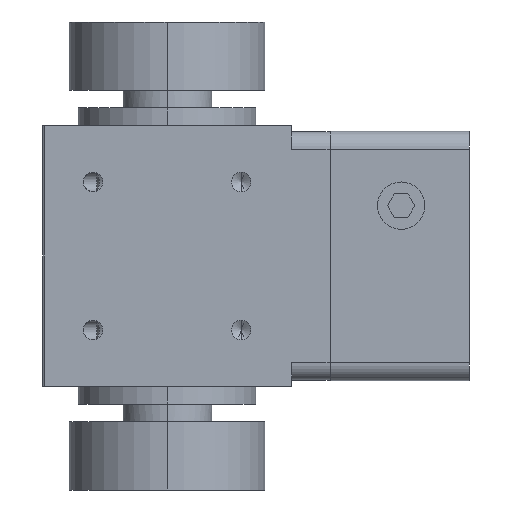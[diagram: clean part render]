
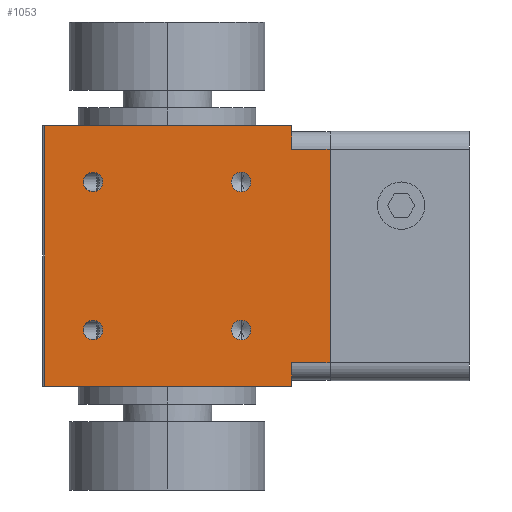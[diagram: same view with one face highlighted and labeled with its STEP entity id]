
A CAD part, left-side view. The second image highlights one B-rep face of the part: STEP entity #1053.
In plain terms, the highlighted planar face has unit normal (-1, 0, 0).
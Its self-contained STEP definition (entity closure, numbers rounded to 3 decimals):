
#54 = VECTOR ( 'NONE', #6122, 1000. ) ;
#59 = CARTESIAN_POINT ( 'NONE',  ( -21., -21., 22. ) ) ;
#90 = VERTEX_POINT ( 'NONE', #8838 ) ;
#144 = EDGE_CURVE ( 'NONE', #90, #648, #5984, .T. ) ;
#196 = CARTESIAN_POINT ( 'NONE',  ( -21., 21., -22. ) ) ;
#262 = AXIS2_PLACEMENT_3D ( 'NONE', #1264, #4088, #1291 ) ;
#356 = EDGE_CURVE ( 'NONE', #997, #7024, #5750, .T. ) ;
#381 = EDGE_CURVE ( 'NONE', #3094, #7191, #5084, .T. ) ;
#384 = ORIENTED_EDGE ( 'NONE', *, *, #144, .F. ) ;
#403 = EDGE_CURVE ( 'NONE', #7191, #3094, #6207, .T. ) ;
#470 = EDGE_CURVE ( 'NONE', #2766, #2841, #1797, .T. ) ;
#546 = CARTESIAN_POINT ( 'NONE',  ( -21., 12.5, 12.5 ) ) ;
#576 = CARTESIAN_POINT ( 'NONE',  ( -21., 20.7, -22. ) ) ;
#648 = VERTEX_POINT ( 'NONE', #1856 ) ;
#665 = EDGE_CURVE ( 'NONE', #5672, #6068, #1447, .T. ) ;
#708 = CARTESIAN_POINT ( 'NONE',  ( -21., 20.7, 22. ) ) ;
#812 = EDGE_CURVE ( 'NONE', #3166, #8064, #7097, .T. ) ;
#813 = CARTESIAN_POINT ( 'NONE',  ( -21., -12.5, 12.5 ) ) ;
#872 = DIRECTION ( 'NONE',  ( 0., -1., 0. ) ) ;
#997 = VERTEX_POINT ( 'NONE', #7281 ) ;
#1013 = DIRECTION ( 'NONE',  ( 0., -1., 0. ) ) ;
#1053 = ADVANCED_FACE ( 'NONE', ( #2654, #3757, #8515, #6077, #4192 ), #3772, .T. ) ;
#1074 = DIRECTION ( 'NONE',  ( -1., 0., 0. ) ) ;
#1168 = ORIENTED_EDGE ( 'NONE', *, *, #812, .T. ) ;
#1264 = CARTESIAN_POINT ( 'NONE',  ( -21., 12.5, -12.5 ) ) ;
#1291 = DIRECTION ( 'NONE',  ( 0., 0., 1. ) ) ;
#1358 = CARTESIAN_POINT ( 'NONE',  ( -21., -12.5, 10.85 ) ) ;
#1413 = CIRCLE ( 'NONE', #4617, 1.65 ) ;
#1447 = LINE ( 'NONE', #4078, #2564 ) ;
#1538 = CARTESIAN_POINT ( 'NONE',  ( -21., -12.5, 12.5 ) ) ;
#1730 = DIRECTION ( 'NONE',  ( 0., 0., 1. ) ) ;
#1788 = CARTESIAN_POINT ( 'NONE',  ( -21., 12.5, 14.15 ) ) ;
#1797 = CIRCLE ( 'NONE', #4605, 1.65 ) ;
#1856 = CARTESIAN_POINT ( 'NONE',  ( -21., 12.5, -10.85 ) ) ;
#2040 = DIRECTION ( 'NONE',  ( 0., 0., 1. ) ) ;
#2275 = DIRECTION ( 'NONE',  ( -1., 0., 0. ) ) ;
#2303 = LINE ( 'NONE', #196, #4039 ) ;
#2379 = CARTESIAN_POINT ( 'NONE',  ( -21., -12.5, -12.5 ) ) ;
#2427 = EDGE_CURVE ( 'NONE', #648, #90, #1413, .T. ) ;
#2564 = VECTOR ( 'NONE', #9103, 1000. ) ;
#2568 = LINE ( 'NONE', #8843, #7762 ) ;
#2591 = VERTEX_POINT ( 'NONE', #7707 ) ;
#2654 = FACE_OUTER_BOUND ( 'NONE', #6034, .T. ) ;
#2758 = ORIENTED_EDGE ( 'NONE', *, *, #8014, .F. ) ;
#2766 = VERTEX_POINT ( 'NONE', #6436 ) ;
#2841 = VERTEX_POINT ( 'NONE', #8905 ) ;
#2856 = EDGE_CURVE ( 'NONE', #8064, #3480, #7485, .T. ) ;
#3094 = VERTEX_POINT ( 'NONE', #1358 ) ;
#3107 = CARTESIAN_POINT ( 'NONE',  ( -21., 21., -22. ) ) ;
#3152 = ORIENTED_EDGE ( 'NONE', *, *, #2856, .T. ) ;
#3166 = VERTEX_POINT ( 'NONE', #4835 ) ;
#3214 = ORIENTED_EDGE ( 'NONE', *, *, #8682, .F. ) ;
#3260 = DIRECTION ( 'NONE',  ( 0., 0., 1. ) ) ;
#3294 = LINE ( 'NONE', #7000, #4717 ) ;
#3308 = ORIENTED_EDGE ( 'NONE', *, *, #470, .F. ) ;
#3371 = DIRECTION ( 'NONE',  ( 0., 0., 1. ) ) ;
#3480 = VERTEX_POINT ( 'NONE', #6727 ) ;
#3582 = ORIENTED_EDGE ( 'NONE', *, *, #8197, .F. ) ;
#3663 = DIRECTION ( 'NONE',  ( 0., -1., 0. ) ) ;
#3728 = AXIS2_PLACEMENT_3D ( 'NONE', #546, #4095, #3371 ) ;
#3757 = FACE_BOUND ( 'NONE', #4956, .T. ) ;
#3768 = CIRCLE ( 'NONE', #8349, 1.65 ) ;
#3772 = PLANE ( 'NONE',  #7122 ) ;
#4013 = CARTESIAN_POINT ( 'NONE',  ( -21., 21., 22. ) ) ;
#4039 = VECTOR ( 'NONE', #3663, 1000. ) ;
#4078 = CARTESIAN_POINT ( 'NONE',  ( -21., 20.7, -22. ) ) ;
#4088 = DIRECTION ( 'NONE',  ( -1., 0., 0. ) ) ;
#4095 = DIRECTION ( 'NONE',  ( -1., 0., 0. ) ) ;
#4119 = EDGE_CURVE ( 'NONE', #997, #6214, #3294, .T. ) ;
#4192 = FACE_BOUND ( 'NONE', #5665, .T. ) ;
#4394 = DIRECTION ( 'NONE',  ( -1., 0., 0. ) ) ;
#4430 = CARTESIAN_POINT ( 'NONE',  ( -21., -21., 18. ) ) ;
#4605 = AXIS2_PLACEMENT_3D ( 'NONE', #2379, #8794, #1730 ) ;
#4617 = AXIS2_PLACEMENT_3D ( 'NONE', #6063, #8915, #3260 ) ;
#4644 = ORIENTED_EDGE ( 'NONE', *, *, #2427, .F. ) ;
#4717 = VECTOR ( 'NONE', #2040, 1000. ) ;
#4747 = EDGE_CURVE ( 'NONE', #6068, #3166, #2303, .T. ) ;
#4835 = CARTESIAN_POINT ( 'NONE',  ( -21., -21., -22. ) ) ;
#4914 = DIRECTION ( 'NONE',  ( 0., 0., 1. ) ) ;
#4956 = EDGE_LOOP ( 'NONE', ( #4644, #384 ) ) ;
#4972 = DIRECTION ( 'NONE',  ( -1., 0., 0. ) ) ;
#4989 = ORIENTED_EDGE ( 'NONE', *, *, #665, .T. ) ;
#5015 = ORIENTED_EDGE ( 'NONE', *, *, #356, .F. ) ;
#5084 = CIRCLE ( 'NONE', #7347, 1.65 ) ;
#5120 = CARTESIAN_POINT ( 'NONE',  ( -21., 12.5, 12.5 ) ) ;
#5194 = VECTOR ( 'NONE', #4914, 1000. ) ;
#5275 = DIRECTION ( 'NONE',  ( 0., -1., 0. ) ) ;
#5314 = CARTESIAN_POINT ( 'NONE',  ( -21., -27.5, 18. ) ) ;
#5422 = CIRCLE ( 'NONE', #5971, 1.65 ) ;
#5582 = CARTESIAN_POINT ( 'NONE',  ( -21., -12.5, -12.5 ) ) ;
#5665 = EDGE_LOOP ( 'NONE', ( #3308, #3582 ) ) ;
#5672 = VERTEX_POINT ( 'NONE', #708 ) ;
#5750 = LINE ( 'NONE', #4430, #6433 ) ;
#5971 = AXIS2_PLACEMENT_3D ( 'NONE', #5582, #4972, #7837 ) ;
#5984 = CIRCLE ( 'NONE', #262, 1.65 ) ;
#6011 = EDGE_LOOP ( 'NONE', ( #3214, #7362 ) ) ;
#6034 = EDGE_LOOP ( 'NONE', ( #2758, #4989, #6118, #1168, #3152, #8687, #5015, #8734 ) ) ;
#6063 = CARTESIAN_POINT ( 'NONE',  ( -21., 12.5, -12.5 ) ) ;
#6068 = VERTEX_POINT ( 'NONE', #576 ) ;
#6077 = FACE_BOUND ( 'NONE', #6242, .T. ) ;
#6118 = ORIENTED_EDGE ( 'NONE', *, *, #4747, .T. ) ;
#6122 = DIRECTION ( 'NONE',  ( 0., -1., 0. ) ) ;
#6203 = CIRCLE ( 'NONE', #3728, 1.65 ) ;
#6207 = CIRCLE ( 'NONE', #8764, 1.65 ) ;
#6214 = VERTEX_POINT ( 'NONE', #59 ) ;
#6242 = EDGE_LOOP ( 'NONE', ( #6832, #7674 ) ) ;
#6433 = VECTOR ( 'NONE', #872, 1000. ) ;
#6436 = CARTESIAN_POINT ( 'NONE',  ( -21., -12.5, -10.85 ) ) ;
#6481 = DIRECTION ( 'NONE',  ( -1., 0., 0. ) ) ;
#6727 = CARTESIAN_POINT ( 'NONE',  ( -21., -27.5, -18. ) ) ;
#6832 = ORIENTED_EDGE ( 'NONE', *, *, #403, .F. ) ;
#7000 = CARTESIAN_POINT ( 'NONE',  ( -21., -21., -22. ) ) ;
#7024 = VERTEX_POINT ( 'NONE', #5314 ) ;
#7073 = VERTEX_POINT ( 'NONE', #1788 ) ;
#7097 = LINE ( 'NONE', #7160, #5194 ) ;
#7122 = AXIS2_PLACEMENT_3D ( 'NONE', #3107, #1074, #1013 ) ;
#7160 = CARTESIAN_POINT ( 'NONE',  ( -21., -21., -22. ) ) ;
#7173 = DIRECTION ( 'NONE',  ( 0., 0., 1. ) ) ;
#7187 = DIRECTION ( 'NONE',  ( 0., 0., 1. ) ) ;
#7191 = VERTEX_POINT ( 'NONE', #7768 ) ;
#7281 = CARTESIAN_POINT ( 'NONE',  ( -21., -21., 18. ) ) ;
#7347 = AXIS2_PLACEMENT_3D ( 'NONE', #813, #4394, #7173 ) ;
#7362 = ORIENTED_EDGE ( 'NONE', *, *, #8276, .F. ) ;
#7485 = LINE ( 'NONE', #8780, #9047 ) ;
#7674 = ORIENTED_EDGE ( 'NONE', *, *, #381, .F. ) ;
#7707 = CARTESIAN_POINT ( 'NONE',  ( -21., 12.5, 10.85 ) ) ;
#7762 = VECTOR ( 'NONE', #8968, 1000. ) ;
#7768 = CARTESIAN_POINT ( 'NONE',  ( -21., -12.5, 14.15 ) ) ;
#7837 = DIRECTION ( 'NONE',  ( 0., 0., 1. ) ) ;
#8014 = EDGE_CURVE ( 'NONE', #5672, #6214, #8209, .T. ) ;
#8064 = VERTEX_POINT ( 'NONE', #8324 ) ;
#8197 = EDGE_CURVE ( 'NONE', #2841, #2766, #5422, .T. ) ;
#8209 = LINE ( 'NONE', #4013, #54 ) ;
#8276 = EDGE_CURVE ( 'NONE', #2591, #7073, #3768, .T. ) ;
#8324 = CARTESIAN_POINT ( 'NONE',  ( -21., -21., -18. ) ) ;
#8349 = AXIS2_PLACEMENT_3D ( 'NONE', #5120, #2275, #7187 ) ;
#8495 = EDGE_CURVE ( 'NONE', #7024, #3480, #2568, .T. ) ;
#8515 = FACE_BOUND ( 'NONE', #6011, .T. ) ;
#8549 = DIRECTION ( 'NONE',  ( 0., 0., 1. ) ) ;
#8682 = EDGE_CURVE ( 'NONE', #7073, #2591, #6203, .T. ) ;
#8687 = ORIENTED_EDGE ( 'NONE', *, *, #8495, .F. ) ;
#8734 = ORIENTED_EDGE ( 'NONE', *, *, #4119, .T. ) ;
#8764 = AXIS2_PLACEMENT_3D ( 'NONE', #1538, #6481, #8549 ) ;
#8780 = CARTESIAN_POINT ( 'NONE',  ( -21., -21., -18. ) ) ;
#8794 = DIRECTION ( 'NONE',  ( -1., 0., 0. ) ) ;
#8838 = CARTESIAN_POINT ( 'NONE',  ( -21., 12.5, -14.15 ) ) ;
#8843 = CARTESIAN_POINT ( 'NONE',  ( -21., -27.5, 21. ) ) ;
#8905 = CARTESIAN_POINT ( 'NONE',  ( -21., -12.5, -14.15 ) ) ;
#8915 = DIRECTION ( 'NONE',  ( -1., 0., 0. ) ) ;
#8968 = DIRECTION ( 'NONE',  ( 0., 0., -1. ) ) ;
#9047 = VECTOR ( 'NONE', #5275, 1000. ) ;
#9103 = DIRECTION ( 'NONE',  ( 0., 0., -1. ) ) ;
